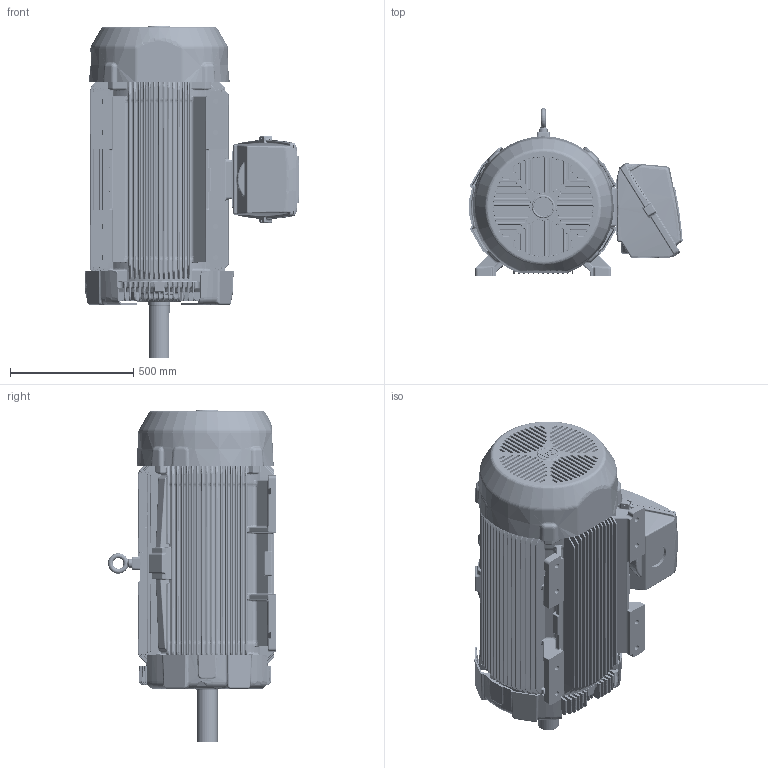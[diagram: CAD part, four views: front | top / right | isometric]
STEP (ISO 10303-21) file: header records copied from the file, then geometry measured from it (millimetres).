
FILE_DESCRIPTION((''),'2;1');
FILE_NAME('449_3D_ASM_ASM','2021-04-16T07:43:10',('EMD2341'),('Nidec Motor Corporation'),'CREO PARAMETRIC BY PTC INC, 2019080','CREO PARAMETRIC BY PTC INC, 2019080','');
FILE_SCHEMA(('CONFIG_CONTROL_DESIGN'));
Length unit declared in the file: inch
Products named in the file (11): 449_FOOTED_FRAME; 0011046; 440_T; 440_CAST_GSK_OBB; 449_BRACKET; 449_SCOOP; 440_CAST_FCVR; 0189738-OBB; 440_OSCB_GSK_OBC; 0189733-CVR; 449_3D_ASM_ASM
Assembly tree (11 placements, depth 2):
  449_3D_ASM_ASM
    449_FOOTED_FRAME
    0011046
    440_T
    440_CAST_GSK_OBB
    449_BRACKET
    449_SCOOP  x2
    440_CAST_FCVR
    0189738-OBB
    440_OSCB_GSK_OBC
    0189733-CVR
Bounding box: 869.16 x 681.1 x 1346.2 mm (x, y, z)
Volume: 272166678.2 mm3; surface area: 8913791.4 mm2
Topology: 11 solids, 12 shells, 7865 faces, 18176 edges, 10397 vertices
Faces by surface type: bspline 3709, cylinder 1564, plane 1260, torus 596, extrusion 342, cone 269, sphere 120, revolution 5
Entity records: 369568 total; most frequent: CARTESIAN_POINT 220116, ORIENTED_EDGE 35754, DIRECTION 24202, EDGE_CURVE 17879, VERTEX_POINT 10219, AXIS2_PLACEMENT_3D 9497, EDGE_LOOP 7862, FACE_OUTER_BOUND 7746
